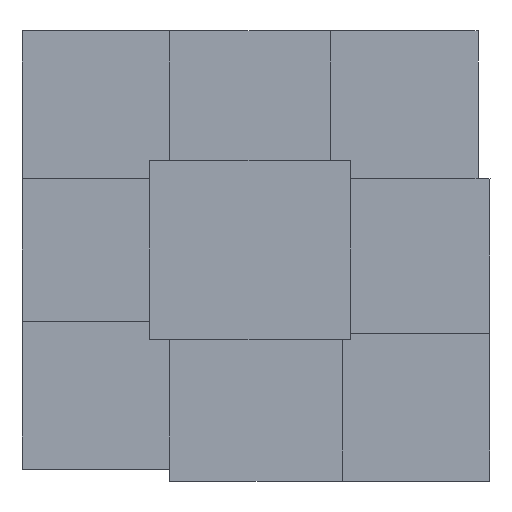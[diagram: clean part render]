
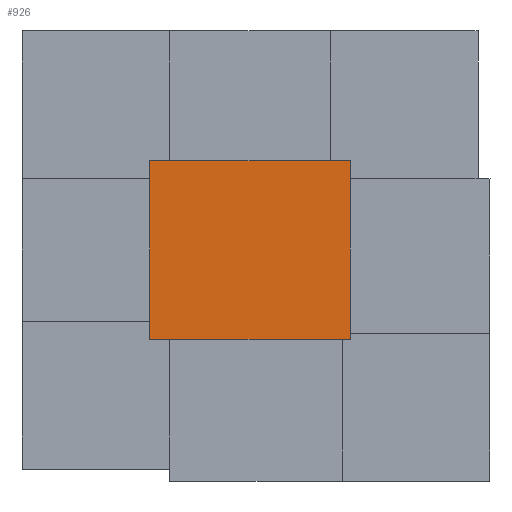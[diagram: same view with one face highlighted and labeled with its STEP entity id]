
A CAD part, left-side view. The second image highlights one B-rep face of the part: STEP entity #926.
In plain terms, the highlighted planar face has unit normal (-1, 0, 0).
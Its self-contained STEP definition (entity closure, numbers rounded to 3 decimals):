
#808=CARTESIAN_POINT('Line Origine',(0.,0.,60.5)) ;
#812=CARTESIAN_POINT('Vertex',(0.,0.,0.)) ;
#814=CARTESIAN_POINT('Vertex',(0.,0.,121.)) ;
#883=CARTESIAN_POINT('Vertex',(0.,136.,0.)) ;
#886=CARTESIAN_POINT('Line Origine',(0.,136.,60.5)) ;
#890=CARTESIAN_POINT('Vertex',(0.,136.,121.)) ;
#905=CARTESIAN_POINT('Axis2P3D Location',(0.,136.,0.)) ;
#910=CARTESIAN_POINT('Line Origine',(0.,68.,0.)) ;
#915=CARTESIAN_POINT('Line Origine',(0.,68.,121.)) ;
#809=DIRECTION('Vector Direction',(0.,0.,1.)) ;
#887=DIRECTION('Vector Direction',(0.,0.,1.)) ;
#906=DIRECTION('Axis2P3D Direction',(-1.,0.,0.)) ;
#907=DIRECTION('Axis2P3D XDirection',(0.,-1.,0.)) ;
#911=DIRECTION('Vector Direction',(0.,-1.,0.)) ;
#916=DIRECTION('Vector Direction',(0.,-1.,0.)) ;
#908=AXIS2_PLACEMENT_3D('Plane Axis2P3D',#905,#906,#907) ;
#921=ORIENTED_EDGE('',*,*,#892,.F.) ;
#922=ORIENTED_EDGE('',*,*,#914,.T.) ;
#923=ORIENTED_EDGE('',*,*,#816,.T.) ;
#924=ORIENTED_EDGE('',*,*,#919,.F.) ;
#810=VECTOR('Line Direction',#809,1.) ;
#888=VECTOR('Line Direction',#887,1.) ;
#912=VECTOR('Line Direction',#911,1.) ;
#917=VECTOR('Line Direction',#916,1.) ;
#926=ADVANCED_FACE('Body.2-molde-superior',(#925),#909,.T.) ;
#816=EDGE_CURVE('',#813,#815,#811,.T.) ;
#892=EDGE_CURVE('',#884,#891,#889,.T.) ;
#914=EDGE_CURVE('',#884,#813,#913,.T.) ;
#919=EDGE_CURVE('',#891,#815,#918,.T.) ;
#920=EDGE_LOOP('',(#921,#922,#923,#924)) ;
#925=FACE_OUTER_BOUND('',#920,.T.) ;
#811=LINE('Line',#808,#810) ;
#889=LINE('Line',#886,#888) ;
#913=LINE('Line',#910,#912) ;
#918=LINE('Line',#915,#917) ;
#909=PLANE('',#908) ;
#813=VERTEX_POINT('',#812) ;
#815=VERTEX_POINT('',#814) ;
#884=VERTEX_POINT('',#883) ;
#891=VERTEX_POINT('',#890) ;
